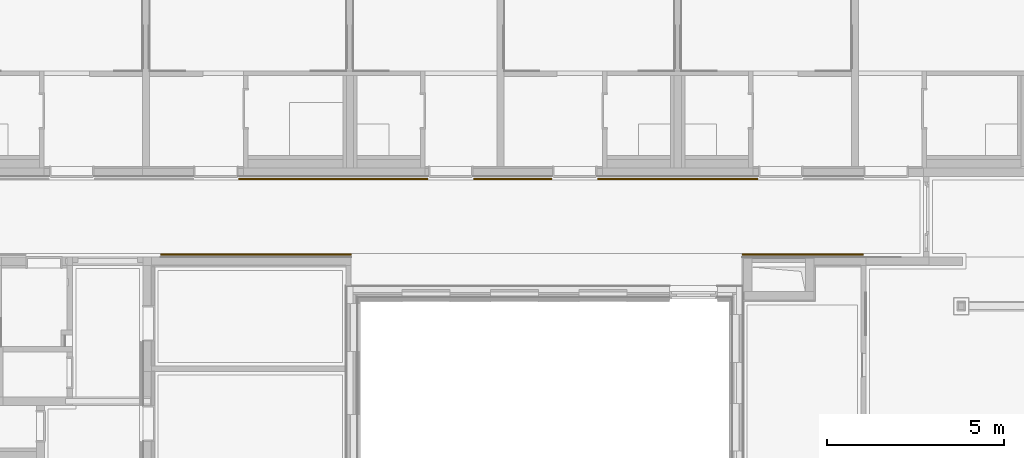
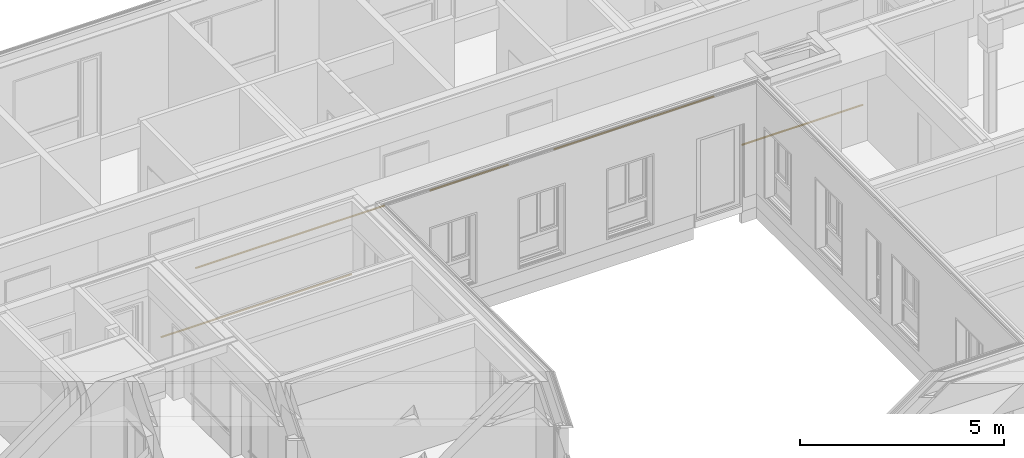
# One storey, part 195 of 207: 5 railings, 5 elements without a shape of their own.
"""IFC4 building model written with IfcOpenShell, lengths in metres."""

from ifc_helpers import new_model, entity, si_unit, converted_unit, derived_unit, frame, origin, place, context, subcontext, project, spatial, faceted_brep, material, element, aggregate, save


model = new_model("IFC4")

# Units and contexts
model_context = context("Model", 3, precision=1e-05, world=origin())
body_context = subcontext(model_context, "Body", "Model", "MODEL_VIEW")
ifc_project = project(units=[si_unit("LENGTHUNIT", "METRE"), si_unit("AREAUNIT", "SQUARE_METRE"), si_unit("VOLUMEUNIT", "CUBIC_METRE"), si_unit("MASSUNIT", "GRAM", prefix="KILO"), converted_unit("PLANEANGLEUNIT", "DEGREE", entity("IfcPlaneAngleMeasure", 0.0174532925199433), si_unit("PLANEANGLEUNIT", "RADIAN"), dimensions=[0, 0, 0, 0, 0, 0, 0]), derived_unit("THERMALTRANSMITTANCEUNIT", [(si_unit("POWERUNIT", "WATT"), 1), (si_unit("THERMODYNAMICTEMPERATUREUNIT", "KELVIN"), -1), (si_unit("LENGTHUNIT", "METRE"), -2)]), derived_unit("VOLUMETRICFLOWRATEUNIT", [(si_unit("LENGTHUNIT", "METRE"), 3), (converted_unit("TIMEUNIT", "hour", entity("IfcTimeMeasure", 3600.0), si_unit("TIMEUNIT", "SECOND"), dimensions=[0, 0, 1, 0, 0, 0, 0]), -1), (si_unit("LENGTHUNIT", "METRE"), -1)])], contexts=[model_context])

# Site, building, storey
site_placement = place(None, origin())
site = spatial("IfcSite", under=ifc_project, at=site_placement, Name="Psychiatrie Neubau Wunstorf", CompositionType="ELEMENT")
building_placement = place(site_placement, origin())
building = spatial("IfcBuilding", under=site, at=building_placement, Name="Neubau H2 Stationsgebäude", CompositionType="ELEMENT")
storey_placement = place(building_placement, frame((0.0, 0.0, -0.2)))
storey = spatial("IfcBuildingStorey", under=building, at=storey_placement, Name="H2 Ebene 0", CompositionType="ELEMENT", Elevation=-0.2)

# Assembly, railing
assembly_1_placement = place(storey_placement, frame((0.0, 0.0, 0.2)))
assembly_1 = element("IfcElementAssembly", 1, at=assembly_1_placement, inside=storey, Name="Geländer+Abstand", PredefinedType="NOTDEFINED")
ifc_material_1 = material(Name="Holz")
railing_1_placement = place(assembly_1_placement, frame((12.615, 24.0175000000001, 0.8)))
railing_1 = element("IfcRailing", 2, at=railing_1_placement, material=ifc_material_1, context=body_context, shape_type="Brep", body=[
    faceted_brep([(0.0, 0.0249999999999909, 0.000103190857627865), (0.0, 0.0293232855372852, 0.000481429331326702), (0.0, 0.0335152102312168, 0.00160465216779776), (0.0, 0.037448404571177, 0.00343873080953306), (0.0, 0.0410033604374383, 0.00592793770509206), (0.0, 0.0440720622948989, 0.00899663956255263), (0.0, 0.0465612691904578, 0.0125515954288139), (0.0, 0.0483953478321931, 0.0164847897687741), (0.0, 0.0495185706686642, 0.0206767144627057), (0.0, 0.049896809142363, 0.025), (0.0, 0.0495185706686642, 0.0293232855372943), (0.0, 0.0483953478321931, 0.0335152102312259), (0.0, 0.0465612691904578, 0.0374484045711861), (0.0, 0.0440720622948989, 0.0410033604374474), (0.0, 0.0410033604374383, 0.0440720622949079), (0.0, 0.037448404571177, 0.0465612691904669), (0.0, 0.0335152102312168, 0.0483953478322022), (0.0, 0.0293232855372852, 0.0495185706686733), (0.0, 0.0249999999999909, 0.0498968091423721), (0.0, 0.0206767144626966, 0.0495185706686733), (0.0, 0.016484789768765, 0.0483953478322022), (0.0, 0.0125515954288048, 0.0465612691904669), (0.0, 0.00899663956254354, 0.044072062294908), (0.0, 0.00592793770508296, 0.0410033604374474), (0.0, 0.00343873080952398, 0.0374484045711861), (0.0, 0.00160465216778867, 0.0335152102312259), (0.0, 0.000481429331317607, 0.0293232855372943), (0.0, 0.00010319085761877, 0.025), (0.0, 0.000481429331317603, 0.0206767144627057), (0.0, 0.00160465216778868, 0.0164847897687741), (0.0, 0.00343873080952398, 0.0125515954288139), (0.0, 0.00592793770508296, 0.00899663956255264), (0.0, 0.00899663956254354, 0.00592793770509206), (0.0, 0.0125515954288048, 0.00343873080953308), (0.0, 0.016484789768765, 0.00160465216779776), (0.0, 0.0206767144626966, 0.000481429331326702), (5.335, 0.0249999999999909, 0.000103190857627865), (5.335, 0.0206767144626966, 0.000481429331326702), (5.335, 0.016484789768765, 0.00160465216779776), (5.335, 0.0125515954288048, 0.00343873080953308), (5.335, 0.00899663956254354, 0.00592793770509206), (5.335, 0.00592793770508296, 0.00899663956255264), (5.335, 0.00343873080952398, 0.0125515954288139), (5.335, 0.00160465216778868, 0.0164847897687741), (5.335, 0.000481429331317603, 0.0206767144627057), (5.335, 0.00010319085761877, 0.025), (5.335, 0.000481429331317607, 0.0293232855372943), (5.335, 0.00160465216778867, 0.0335152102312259), (5.335, 0.00343873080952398, 0.0374484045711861), (5.335, 0.00592793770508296, 0.0410033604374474), (5.335, 0.00899663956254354, 0.044072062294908), (5.335, 0.0125515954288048, 0.0465612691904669), (5.335, 0.016484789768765, 0.0483953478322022), (5.335, 0.0206767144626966, 0.0495185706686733), (5.335, 0.0249999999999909, 0.0498968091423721), (5.335, 0.0293232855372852, 0.0495185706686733), (5.335, 0.0335152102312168, 0.0483953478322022), (5.335, 0.037448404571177, 0.0465612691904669), (5.335, 0.0410033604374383, 0.0440720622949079), (5.335, 0.0440720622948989, 0.0410033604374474), (5.335, 0.0465612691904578, 0.0374484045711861), (5.335, 0.0483953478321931, 0.0335152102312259), (5.335, 0.0495185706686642, 0.0293232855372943), (5.335, 0.049896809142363, 0.025), (5.335, 0.0495185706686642, 0.0206767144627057), (5.335, 0.0483953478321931, 0.0164847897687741), (5.335, 0.0465612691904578, 0.0125515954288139), (5.335, 0.0440720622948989, 0.00899663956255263), (5.335, 0.0410033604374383, 0.00592793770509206), (5.335, 0.037448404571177, 0.00343873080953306), (5.335, 0.0335152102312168, 0.00160465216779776), (5.335, 0.0293232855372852, 0.000481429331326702)], [[[0, 1, 2, 3, 4, 5, 6, 7, 8, 9, 10, 11, 12, 13, 14, 15, 16, 17, 18, 19, 20, 21, 22, 23, 24, 25, 26, 27, 28, 29, 30, 31, 32, 33, 34, 35]], [[36, 37, 38, 39, 40, 41, 42, 43, 44, 45, 46, 47, 48, 49, 50, 51, 52, 53, 54, 55, 56, 57, 58, 59, 60, 61, 62, 63, 64, 65, 66, 67, 68, 69, 70, 71]], [[1, 0, 36, 71]], [[2, 1, 71, 70]], [[3, 2, 70, 69]], [[4, 3, 69, 68]], [[5, 4, 68, 67]], [[6, 5, 67, 66]], [[7, 6, 66, 65]], [[8, 7, 65, 64]], [[9, 8, 64, 63]], [[10, 9, 63, 62]], [[11, 10, 62, 61]], [[12, 11, 61, 60]], [[13, 12, 60, 59]], [[14, 13, 59, 58]], [[15, 14, 58, 57]], [[16, 15, 57, 56]], [[17, 16, 56, 55]], [[18, 17, 55, 54]], [[19, 18, 54, 53]], [[20, 19, 53, 52]], [[21, 20, 52, 51]], [[22, 21, 51, 50]], [[23, 22, 50, 49]], [[24, 23, 49, 48]], [[25, 24, 48, 47]], [[26, 25, 47, 46]], [[27, 26, 46, 45]], [[28, 27, 45, 44]], [[29, 28, 44, 43]], [[30, 29, 43, 42]], [[31, 30, 42, 41]], [[32, 31, 41, 40]], [[33, 32, 40, 39]], [[34, 33, 39, 38]], [[35, 34, 38, 37]], [[0, 35, 37, 36]]], orient=[[False], [False], [False], [False], [False], [False], [False], [False], [False], [False], [False], [False], [False], [False], [False], [False], [False], [False], [False], [False], [False], [False], [False], [False], [False], [False], [False], [False], [False], [False], [False], [False], [False], [False], [False], [False], [False], [False]]),
])
aggregate(assembly_1, [railing_1])

assembly_2_placement = place(storey_placement, frame((0.0, 0.0, 0.2)))
assembly_2 = element("IfcElementAssembly", 3, at=assembly_2_placement, inside=storey, Name="Geländer+Abstand", PredefinedType="NOTDEFINED")
ifc_material_2 = material(Name="Holz")
railing_2_placement = place(assembly_2_placement, frame((19.24, 24.0175000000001, 0.8)))
railing_2 = element("IfcRailing", 4, at=railing_2_placement, material=ifc_material_2, context=body_context, shape_type="Brep", body=[
    faceted_brep([(0.0, 0.0249999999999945, 0.000103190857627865), (0.0, 0.0293232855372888, 0.000481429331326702), (0.0, 0.0335152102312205, 0.00160465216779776), (0.0, 0.0374484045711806, 0.00343873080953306), (0.0, 0.0410033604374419, 0.00592793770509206), (0.0, 0.0440720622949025, 0.00899663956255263), (0.0, 0.0465612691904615, 0.0125515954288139), (0.0, 0.0483953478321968, 0.0164847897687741), (0.0, 0.0495185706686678, 0.0206767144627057), (0.0, 0.0498968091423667, 0.025), (0.0, 0.0495185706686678, 0.0293232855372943), (0.0, 0.0483953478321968, 0.0335152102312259), (0.0, 0.0465612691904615, 0.0374484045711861), (0.0, 0.0440720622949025, 0.0410033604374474), (0.0, 0.0410033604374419, 0.0440720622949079), (0.0, 0.0374484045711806, 0.0465612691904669), (0.0, 0.0335152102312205, 0.0483953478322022), (0.0, 0.0293232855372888, 0.0495185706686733), (0.0, 0.0249999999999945, 0.0498968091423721), (0.0, 0.0206767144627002, 0.0495185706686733), (0.0, 0.0164847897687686, 0.0483953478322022), (0.0, 0.0125515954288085, 0.0465612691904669), (0.0, 0.00899663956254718, 0.044072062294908), (0.0, 0.0059279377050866, 0.0410033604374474), (0.0, 0.00343873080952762, 0.0374484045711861), (0.0, 0.00160465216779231, 0.0335152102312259), (0.0, 0.000481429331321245, 0.0293232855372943), (0.0, 0.000103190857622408, 0.025), (0.0, 0.000481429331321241, 0.0206767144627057), (0.0, 0.00160465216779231, 0.0164847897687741), (0.0, 0.00343873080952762, 0.0125515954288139), (0.0, 0.0059279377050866, 0.00899663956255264), (0.0, 0.00899663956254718, 0.00592793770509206), (0.0, 0.0125515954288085, 0.00343873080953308), (0.0, 0.0164847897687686, 0.00160465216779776), (0.0, 0.0206767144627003, 0.000481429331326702), (2.21, 0.0249999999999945, 0.000103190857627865), (2.21, 0.0206767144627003, 0.000481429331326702), (2.21, 0.0164847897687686, 0.00160465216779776), (2.21, 0.0125515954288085, 0.00343873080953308), (2.21, 0.00899663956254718, 0.00592793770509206), (2.21, 0.0059279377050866, 0.00899663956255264), (2.21, 0.00343873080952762, 0.0125515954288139), (2.21, 0.00160465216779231, 0.0164847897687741), (2.21, 0.000481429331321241, 0.0206767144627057), (2.21, 0.000103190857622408, 0.025), (2.21, 0.000481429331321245, 0.0293232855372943), (2.21, 0.00160465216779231, 0.0335152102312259), (2.21, 0.00343873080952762, 0.0374484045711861), (2.21, 0.0059279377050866, 0.0410033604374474), (2.21, 0.00899663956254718, 0.044072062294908), (2.21, 0.0125515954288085, 0.0465612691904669), (2.21, 0.0164847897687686, 0.0483953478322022), (2.21, 0.0206767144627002, 0.0495185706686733), (2.21, 0.0249999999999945, 0.0498968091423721), (2.21, 0.0293232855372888, 0.0495185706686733), (2.21, 0.0335152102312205, 0.0483953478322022), (2.21, 0.0374484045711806, 0.0465612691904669), (2.21, 0.0410033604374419, 0.0440720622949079), (2.21, 0.0440720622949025, 0.0410033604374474), (2.21, 0.0465612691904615, 0.0374484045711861), (2.21, 0.0483953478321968, 0.0335152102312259), (2.21, 0.0495185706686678, 0.0293232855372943), (2.21, 0.0498968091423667, 0.025), (2.21, 0.0495185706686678, 0.0206767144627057), (2.21, 0.0483953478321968, 0.0164847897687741), (2.21, 0.0465612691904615, 0.0125515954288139), (2.21, 0.0440720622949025, 0.00899663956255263), (2.21, 0.0410033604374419, 0.00592793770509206), (2.21, 0.0374484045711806, 0.00343873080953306), (2.21, 0.0335152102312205, 0.00160465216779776), (2.21, 0.0293232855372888, 0.000481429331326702)], [[[0, 1, 2, 3, 4, 5, 6, 7, 8, 9, 10, 11, 12, 13, 14, 15, 16, 17, 18, 19, 20, 21, 22, 23, 24, 25, 26, 27, 28, 29, 30, 31, 32, 33, 34, 35]], [[36, 37, 38, 39, 40, 41, 42, 43, 44, 45, 46, 47, 48, 49, 50, 51, 52, 53, 54, 55, 56, 57, 58, 59, 60, 61, 62, 63, 64, 65, 66, 67, 68, 69, 70, 71]], [[1, 0, 36, 71]], [[2, 1, 71, 70]], [[3, 2, 70, 69]], [[4, 3, 69, 68]], [[5, 4, 68, 67]], [[6, 5, 67, 66]], [[7, 6, 66, 65]], [[8, 7, 65, 64]], [[9, 8, 64, 63]], [[10, 9, 63, 62]], [[11, 10, 62, 61]], [[12, 11, 61, 60]], [[13, 12, 60, 59]], [[14, 13, 59, 58]], [[15, 14, 58, 57]], [[16, 15, 57, 56]], [[17, 16, 56, 55]], [[18, 17, 55, 54]], [[19, 18, 54, 53]], [[20, 19, 53, 52]], [[21, 20, 52, 51]], [[22, 21, 51, 50]], [[23, 22, 50, 49]], [[24, 23, 49, 48]], [[25, 24, 48, 47]], [[26, 25, 47, 46]], [[27, 26, 46, 45]], [[28, 27, 45, 44]], [[29, 28, 44, 43]], [[30, 29, 43, 42]], [[31, 30, 42, 41]], [[32, 31, 41, 40]], [[33, 32, 40, 39]], [[34, 33, 39, 38]], [[35, 34, 38, 37]], [[0, 35, 37, 36]]], orient=[[False], [False], [False], [False], [False], [False], [False], [False], [False], [False], [False], [False], [False], [False], [False], [False], [False], [False], [False], [False], [False], [False], [False], [False], [False], [False], [False], [False], [False], [False], [False], [False], [False], [False], [False], [False], [False], [False]]),
])
aggregate(assembly_2, [railing_2])

assembly_3_placement = place(storey_placement, frame((0.0, 0.0, 0.2)))
assembly_3 = element("IfcElementAssembly", 5, at=assembly_3_placement, inside=storey, Name="Geländer+Abstand", PredefinedType="NOTDEFINED")
ifc_material_3 = material(Name="Holz")
railing_3_placement = place(assembly_3_placement, frame((22.74, 24.0175000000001, 0.8)))
railing_3 = element("IfcRailing", 6, at=railing_3_placement, material=ifc_material_3, context=body_context, shape_type="Brep", body=[
    faceted_brep([(0.0, 0.0249999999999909, 0.000103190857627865), (0.0, 0.0293232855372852, 0.000481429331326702), (0.0, 0.0335152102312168, 0.00160465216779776), (0.0, 0.037448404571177, 0.00343873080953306), (0.0, 0.0410033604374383, 0.00592793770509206), (0.0, 0.0440720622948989, 0.00899663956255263), (0.0, 0.0465612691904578, 0.0125515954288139), (0.0, 0.0483953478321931, 0.0164847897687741), (0.0, 0.0495185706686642, 0.0206767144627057), (0.0, 0.049896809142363, 0.025), (0.0, 0.0495185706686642, 0.0293232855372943), (0.0, 0.0483953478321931, 0.0335152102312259), (0.0, 0.0465612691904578, 0.0374484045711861), (0.0, 0.0440720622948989, 0.0410033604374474), (0.0, 0.0410033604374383, 0.0440720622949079), (0.0, 0.037448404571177, 0.0465612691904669), (0.0, 0.0335152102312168, 0.0483953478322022), (0.0, 0.0293232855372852, 0.0495185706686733), (0.0, 0.0249999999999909, 0.0498968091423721), (0.0, 0.0206767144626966, 0.0495185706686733), (0.0, 0.016484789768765, 0.0483953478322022), (0.0, 0.0125515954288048, 0.0465612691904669), (0.0, 0.00899663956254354, 0.044072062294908), (0.0, 0.00592793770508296, 0.0410033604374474), (0.0, 0.00343873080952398, 0.0374484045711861), (0.0, 0.00160465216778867, 0.0335152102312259), (0.0, 0.000481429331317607, 0.0293232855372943), (0.0, 0.00010319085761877, 0.025), (0.0, 0.000481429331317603, 0.0206767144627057), (0.0, 0.00160465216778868, 0.0164847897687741), (0.0, 0.00343873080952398, 0.0125515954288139), (0.0, 0.00592793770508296, 0.00899663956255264), (0.0, 0.00899663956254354, 0.00592793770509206), (0.0, 0.0125515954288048, 0.00343873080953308), (0.0, 0.016484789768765, 0.00160465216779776), (0.0, 0.0206767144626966, 0.000481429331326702), (4.52, 0.0249999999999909, 0.000103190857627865), (4.52, 0.0206767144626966, 0.000481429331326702), (4.52, 0.016484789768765, 0.00160465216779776), (4.52, 0.0125515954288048, 0.00343873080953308), (4.52, 0.00899663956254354, 0.00592793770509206), (4.52, 0.00592793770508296, 0.00899663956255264), (4.52, 0.00343873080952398, 0.0125515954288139), (4.52, 0.00160465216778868, 0.0164847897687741), (4.52, 0.000481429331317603, 0.0206767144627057), (4.52, 0.00010319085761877, 0.025), (4.52, 0.000481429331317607, 0.0293232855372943), (4.52, 0.00160465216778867, 0.0335152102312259), (4.52, 0.00343873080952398, 0.0374484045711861), (4.52, 0.00592793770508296, 0.0410033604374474), (4.52, 0.00899663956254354, 0.044072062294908), (4.52, 0.0125515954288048, 0.0465612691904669), (4.52, 0.016484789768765, 0.0483953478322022), (4.52, 0.0206767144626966, 0.0495185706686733), (4.52, 0.0249999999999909, 0.0498968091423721), (4.52, 0.0293232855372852, 0.0495185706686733), (4.52, 0.0335152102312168, 0.0483953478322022), (4.52, 0.037448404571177, 0.0465612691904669), (4.52, 0.0410033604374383, 0.0440720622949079), (4.52, 0.0440720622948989, 0.0410033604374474), (4.52, 0.0465612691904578, 0.0374484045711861), (4.52, 0.0483953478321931, 0.0335152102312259), (4.52, 0.0495185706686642, 0.0293232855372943), (4.52, 0.049896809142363, 0.025), (4.52, 0.0495185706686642, 0.0206767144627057), (4.52, 0.0483953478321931, 0.0164847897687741), (4.52, 0.0465612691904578, 0.0125515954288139), (4.52, 0.0440720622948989, 0.00899663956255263), (4.52, 0.0410033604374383, 0.00592793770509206), (4.52, 0.037448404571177, 0.00343873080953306), (4.52, 0.0335152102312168, 0.00160465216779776), (4.52, 0.0293232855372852, 0.000481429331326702)], [[[0, 1, 2, 3, 4, 5, 6, 7, 8, 9, 10, 11, 12, 13, 14, 15, 16, 17, 18, 19, 20, 21, 22, 23, 24, 25, 26, 27, 28, 29, 30, 31, 32, 33, 34, 35]], [[36, 37, 38, 39, 40, 41, 42, 43, 44, 45, 46, 47, 48, 49, 50, 51, 52, 53, 54, 55, 56, 57, 58, 59, 60, 61, 62, 63, 64, 65, 66, 67, 68, 69, 70, 71]], [[1, 0, 36, 71]], [[2, 1, 71, 70]], [[3, 2, 70, 69]], [[4, 3, 69, 68]], [[5, 4, 68, 67]], [[6, 5, 67, 66]], [[7, 6, 66, 65]], [[8, 7, 65, 64]], [[9, 8, 64, 63]], [[10, 9, 63, 62]], [[11, 10, 62, 61]], [[12, 11, 61, 60]], [[13, 12, 60, 59]], [[14, 13, 59, 58]], [[15, 14, 58, 57]], [[16, 15, 57, 56]], [[17, 16, 56, 55]], [[18, 17, 55, 54]], [[19, 18, 54, 53]], [[20, 19, 53, 52]], [[21, 20, 52, 51]], [[22, 21, 51, 50]], [[23, 22, 50, 49]], [[24, 23, 49, 48]], [[25, 24, 48, 47]], [[26, 25, 47, 46]], [[27, 26, 46, 45]], [[28, 27, 45, 44]], [[29, 28, 44, 43]], [[30, 29, 43, 42]], [[31, 30, 42, 41]], [[32, 31, 41, 40]], [[33, 32, 40, 39]], [[34, 33, 39, 38]], [[35, 34, 38, 37]], [[0, 35, 37, 36]]], orient=[[False], [False], [False], [False], [False], [False], [False], [False], [False], [False], [False], [False], [False], [False], [False], [False], [False], [False], [False], [False], [False], [False], [False], [False], [False], [False], [False], [False], [False], [False], [False], [False], [False], [False], [False], [False], [False], [False]]),
])
aggregate(assembly_3, [railing_3])

assembly_4_placement = place(storey_placement, frame((0.0, 0.0, 0.2)))
assembly_4 = element("IfcElementAssembly", 7, at=assembly_4_placement, inside=storey, Name="Geländer+Abstand", PredefinedType="NOTDEFINED")
ifc_material_4 = material(Name="Holz")
railing_4_placement = place(assembly_4_placement, frame((26.82, 21.886, 0.8)))
railing_4 = element("IfcRailing", 8, at=railing_4_placement, material=ifc_material_4, context=body_context, shape_type="Brep", body=[
    faceted_brep([(3.41901332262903, 0.0249999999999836, 0.0498968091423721), (3.41901332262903, 0.0293232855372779, 0.0495185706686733), (3.41901332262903, 0.0335152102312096, 0.0483953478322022), (3.41901332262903, 0.0374484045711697, 0.0465612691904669), (3.41901332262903, 0.041003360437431, 0.0440720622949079), (3.41901332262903, 0.0440720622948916, 0.0410033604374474), (3.41901332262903, 0.0465612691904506, 0.0374484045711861), (3.41901332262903, 0.0483953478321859, 0.0335152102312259), (3.41901332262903, 0.0495185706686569, 0.0293232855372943), (3.41901332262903, 0.0498968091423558, 0.025), (3.41901332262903, 0.0495185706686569, 0.0206767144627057), (3.41901332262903, 0.0483953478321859, 0.0164847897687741), (3.41901332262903, 0.0465612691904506, 0.0125515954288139), (3.41901332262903, 0.0440720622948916, 0.00899663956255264), (3.41901332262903, 0.041003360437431, 0.00592793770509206), (3.41901332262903, 0.0374484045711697, 0.00343873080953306), (3.41901332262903, 0.0335152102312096, 0.00160465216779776), (3.41901332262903, 0.0293232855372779, 0.000481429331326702), (3.41901332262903, 0.0249999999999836, 0.000103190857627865), (3.41901332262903, 0.0206767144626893, 0.000481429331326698), (3.41901332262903, 0.0164847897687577, 0.00160465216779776), (3.41901332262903, 0.0125515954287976, 0.00343873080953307), (3.41901332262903, 0.00899663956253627, 0.00592793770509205), (3.41901332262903, 0.00592793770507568, 0.00899663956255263), (3.41901332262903, 0.00343873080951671, 0.0125515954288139), (3.41901332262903, 0.00160465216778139, 0.0164847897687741), (3.41901332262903, 0.000481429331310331, 0.0206767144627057), (3.41901332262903, 0.000103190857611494, 0.025), (3.41901332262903, 0.000481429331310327, 0.0293232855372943), (3.41901332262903, 0.0016046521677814, 0.0335152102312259), (3.41901332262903, 0.0034387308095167, 0.0374484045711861), (3.41901332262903, 0.00592793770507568, 0.0410033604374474), (3.41901332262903, 0.00899663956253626, 0.0440720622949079), (3.41901332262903, 0.0125515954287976, 0.0465612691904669), (3.41901332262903, 0.0164847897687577, 0.0483953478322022), (3.41901332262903, 0.0206767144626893, 0.0495185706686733), (0.0, 0.0249999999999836, 0.0498968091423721), (0.0, 0.0206767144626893, 0.0495185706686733), (0.0, 0.0164847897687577, 0.0483953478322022), (0.0, 0.0125515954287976, 0.0465612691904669), (0.0, 0.00899663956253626, 0.0440720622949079), (0.0, 0.00592793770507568, 0.0410033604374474), (0.0, 0.0034387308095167, 0.0374484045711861), (0.0, 0.0016046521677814, 0.0335152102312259), (0.0, 0.000481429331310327, 0.0293232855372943), (0.0, 0.000103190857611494, 0.025), (0.0, 0.000481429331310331, 0.0206767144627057), (0.0, 0.00160465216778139, 0.0164847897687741), (0.0, 0.00343873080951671, 0.0125515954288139), (0.0, 0.00592793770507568, 0.00899663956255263), (0.0, 0.00899663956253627, 0.00592793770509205), (0.0, 0.0125515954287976, 0.00343873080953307), (0.0, 0.0164847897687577, 0.00160465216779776), (0.0, 0.0206767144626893, 0.000481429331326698), (0.0, 0.0249999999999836, 0.000103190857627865), (0.0, 0.0293232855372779, 0.000481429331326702), (0.0, 0.0335152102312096, 0.00160465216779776), (0.0, 0.0374484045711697, 0.00343873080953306), (0.0, 0.041003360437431, 0.00592793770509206), (0.0, 0.0440720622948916, 0.00899663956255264), (0.0, 0.0465612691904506, 0.0125515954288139), (0.0, 0.0483953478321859, 0.0164847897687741), (0.0, 0.0495185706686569, 0.0206767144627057), (0.0, 0.0498968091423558, 0.025), (0.0, 0.0495185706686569, 0.0293232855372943), (0.0, 0.0483953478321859, 0.0335152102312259), (0.0, 0.0465612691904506, 0.0374484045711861), (0.0, 0.0440720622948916, 0.0410033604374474), (0.0, 0.041003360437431, 0.0440720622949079), (0.0, 0.0374484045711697, 0.0465612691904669), (0.0, 0.0335152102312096, 0.0483953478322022), (0.0, 0.0293232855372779, 0.0495185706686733)], [[[0, 1, 2, 3, 4, 5, 6, 7, 8, 9, 10, 11, 12, 13, 14, 15, 16, 17, 18, 19, 20, 21, 22, 23, 24, 25, 26, 27, 28, 29, 30, 31, 32, 33, 34, 35]], [[36, 37, 38, 39, 40, 41, 42, 43, 44, 45, 46, 47, 48, 49, 50, 51, 52, 53, 54, 55, 56, 57, 58, 59, 60, 61, 62, 63, 64, 65, 66, 67, 68, 69, 70, 71]], [[1, 0, 36, 71]], [[2, 1, 71, 70]], [[3, 2, 70, 69]], [[4, 3, 69, 68]], [[5, 4, 68, 67]], [[6, 5, 67, 66]], [[7, 6, 66, 65]], [[8, 7, 65, 64]], [[9, 8, 64, 63]], [[10, 9, 63, 62]], [[11, 10, 62, 61]], [[12, 11, 61, 60]], [[13, 12, 60, 59]], [[14, 13, 59, 58]], [[15, 14, 58, 57]], [[16, 15, 57, 56]], [[17, 16, 56, 55]], [[18, 17, 55, 54]], [[19, 18, 54, 53]], [[20, 19, 53, 52]], [[21, 20, 52, 51]], [[22, 21, 51, 50]], [[23, 22, 50, 49]], [[24, 23, 49, 48]], [[25, 24, 48, 47]], [[26, 25, 47, 46]], [[27, 26, 46, 45]], [[28, 27, 45, 44]], [[29, 28, 44, 43]], [[30, 29, 43, 42]], [[31, 30, 42, 41]], [[32, 31, 41, 40]], [[33, 32, 40, 39]], [[34, 33, 39, 38]], [[35, 34, 38, 37]], [[0, 35, 37, 36]]], orient=[[False], [False], [False], [False], [False], [False], [False], [False], [False], [False], [False], [False], [False], [False], [False], [False], [False], [False], [False], [False], [False], [False], [False], [False], [False], [False], [False], [False], [False], [False], [False], [False], [False], [False], [False], [False], [False], [False]]),
])
aggregate(assembly_4, [railing_4])

assembly_5_placement = place(storey_placement, frame((0.0, 0.0, 0.2)))
assembly_5 = element("IfcElementAssembly", 9, at=assembly_5_placement, inside=storey, Name="Geländer+Abstand", PredefinedType="NOTDEFINED")
ifc_material_5 = material(Name="Holz")
railing_5_placement = place(assembly_5_placement, frame((10.41, 21.886, 0.8)))
railing_5 = element("IfcRailing", 10, at=railing_5_placement, material=ifc_material_5, context=body_context, shape_type="Brep", body=[
    faceted_brep([(5.379, 0.025, 0.0498968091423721), (5.379, 0.0293232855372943, 0.0495185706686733), (5.379, 0.0335152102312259, 0.0483953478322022), (5.379, 0.0374484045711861, 0.0465612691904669), (5.379, 0.0410033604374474, 0.0440720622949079), (5.379, 0.0440720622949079, 0.0410033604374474), (5.379, 0.0465612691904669, 0.0374484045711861), (5.379, 0.0483953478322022, 0.0335152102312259), (5.379, 0.0495185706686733, 0.0293232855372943), (5.379, 0.0498968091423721, 0.025), (5.379, 0.0495185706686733, 0.0206767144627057), (5.379, 0.0483953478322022, 0.0164847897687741), (5.379, 0.0465612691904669, 0.0125515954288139), (5.379, 0.0440720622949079, 0.00899663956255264), (5.379, 0.0410033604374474, 0.00592793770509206), (5.379, 0.0374484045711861, 0.00343873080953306), (5.379, 0.0335152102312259, 0.00160465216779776), (5.379, 0.0293232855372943, 0.000481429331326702), (5.379, 0.025, 0.000103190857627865), (5.379, 0.0206767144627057, 0.000481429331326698), (5.379, 0.0164847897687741, 0.00160465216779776), (5.379, 0.0125515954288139, 0.00343873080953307), (5.379, 0.00899663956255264, 0.00592793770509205), (5.379, 0.00592793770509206, 0.00899663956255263), (5.379, 0.00343873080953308, 0.0125515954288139), (5.379, 0.00160465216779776, 0.0164847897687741), (5.379, 0.000481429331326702, 0.0206767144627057), (5.379, 0.000103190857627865, 0.025), (5.379, 0.000481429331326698, 0.0293232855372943), (5.379, 0.00160465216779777, 0.0335152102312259), (5.379, 0.00343873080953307, 0.0374484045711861), (5.379, 0.00592793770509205, 0.0410033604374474), (5.379, 0.00899663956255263, 0.0440720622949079), (5.379, 0.0125515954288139, 0.0465612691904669), (5.379, 0.0164847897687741, 0.0483953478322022), (5.379, 0.0206767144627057, 0.0495185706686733), (0.0, 0.025, 0.0498968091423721), (0.0, 0.0206767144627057, 0.0495185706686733), (0.0, 0.0164847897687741, 0.0483953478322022), (0.0, 0.0125515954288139, 0.0465612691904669), (0.0, 0.00899663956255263, 0.0440720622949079), (0.0, 0.00592793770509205, 0.0410033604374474), (0.0, 0.00343873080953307, 0.0374484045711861), (0.0, 0.00160465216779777, 0.0335152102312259), (0.0, 0.000481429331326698, 0.0293232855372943), (0.0, 0.000103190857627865, 0.025), (0.0, 0.000481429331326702, 0.0206767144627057), (0.0, 0.00160465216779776, 0.0164847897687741), (0.0, 0.00343873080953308, 0.0125515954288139), (0.0, 0.00592793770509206, 0.00899663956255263), (0.0, 0.00899663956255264, 0.00592793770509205), (0.0, 0.0125515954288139, 0.00343873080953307), (0.0, 0.0164847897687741, 0.00160465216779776), (0.0, 0.0206767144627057, 0.000481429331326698), (0.0, 0.025, 0.000103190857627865), (0.0, 0.0293232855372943, 0.000481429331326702), (0.0, 0.0335152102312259, 0.00160465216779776), (0.0, 0.0374484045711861, 0.00343873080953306), (0.0, 0.0410033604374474, 0.00592793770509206), (0.0, 0.0440720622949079, 0.00899663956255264), (0.0, 0.0465612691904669, 0.0125515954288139), (0.0, 0.0483953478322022, 0.0164847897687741), (0.0, 0.0495185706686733, 0.0206767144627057), (0.0, 0.0498968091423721, 0.025), (0.0, 0.0495185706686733, 0.0293232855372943), (0.0, 0.0483953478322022, 0.0335152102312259), (0.0, 0.0465612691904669, 0.0374484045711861), (0.0, 0.0440720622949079, 0.0410033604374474), (0.0, 0.0410033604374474, 0.0440720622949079), (0.0, 0.0374484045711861, 0.0465612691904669), (0.0, 0.0335152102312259, 0.0483953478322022), (0.0, 0.0293232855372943, 0.0495185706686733)], [[[0, 1, 2, 3, 4, 5, 6, 7, 8, 9, 10, 11, 12, 13, 14, 15, 16, 17, 18, 19, 20, 21, 22, 23, 24, 25, 26, 27, 28, 29, 30, 31, 32, 33, 34, 35]], [[36, 37, 38, 39, 40, 41, 42, 43, 44, 45, 46, 47, 48, 49, 50, 51, 52, 53, 54, 55, 56, 57, 58, 59, 60, 61, 62, 63, 64, 65, 66, 67, 68, 69, 70, 71]], [[1, 0, 36, 71]], [[2, 1, 71, 70]], [[3, 2, 70, 69]], [[4, 3, 69, 68]], [[5, 4, 68, 67]], [[6, 5, 67, 66]], [[7, 6, 66, 65]], [[8, 7, 65, 64]], [[9, 8, 64, 63]], [[10, 9, 63, 62]], [[11, 10, 62, 61]], [[12, 11, 61, 60]], [[13, 12, 60, 59]], [[14, 13, 59, 58]], [[15, 14, 58, 57]], [[16, 15, 57, 56]], [[17, 16, 56, 55]], [[18, 17, 55, 54]], [[19, 18, 54, 53]], [[20, 19, 53, 52]], [[21, 20, 52, 51]], [[22, 21, 51, 50]], [[23, 22, 50, 49]], [[24, 23, 49, 48]], [[25, 24, 48, 47]], [[26, 25, 47, 46]], [[27, 26, 46, 45]], [[28, 27, 45, 44]], [[29, 28, 44, 43]], [[30, 29, 43, 42]], [[31, 30, 42, 41]], [[32, 31, 41, 40]], [[33, 32, 40, 39]], [[34, 33, 39, 38]], [[35, 34, 38, 37]], [[0, 35, 37, 36]]], orient=[[False], [False], [False], [False], [False], [False], [False], [False], [False], [False], [False], [False], [False], [False], [False], [False], [False], [False], [False], [False], [False], [False], [False], [False], [False], [False], [False], [False], [False], [False], [False], [False], [False], [False], [False], [False], [False], [False]]),
])
aggregate(assembly_5, [railing_5])

save(model, "model.ifc")
